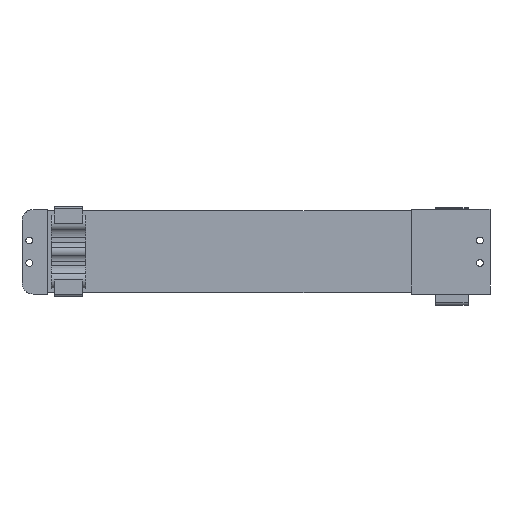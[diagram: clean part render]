
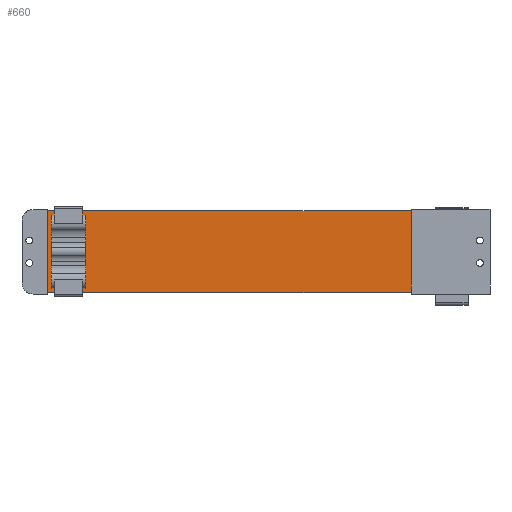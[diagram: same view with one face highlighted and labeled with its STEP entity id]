
A CAD part, front view. The second image highlights one B-rep face of the part: STEP entity #660.
In plain terms, the highlighted planar face has unit normal (0, -1, 0).
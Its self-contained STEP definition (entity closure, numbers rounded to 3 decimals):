
#660 = ADVANCED_FACE( '', ( #1328 ), #1329, .F. );
#1328 = FACE_OUTER_BOUND( '', #1994, .T. );
#1329 = PLANE( '', #1995 );
#1994 = EDGE_LOOP( '', ( #3670, #3671, #3672, #3673 ) );
#1995 = AXIS2_PLACEMENT_3D( '', #3674, #3675, #3676 );
#3670 = ORIENTED_EDGE( '', *, *, #4700, .T. );
#3671 = ORIENTED_EDGE( '', *, *, #4285, .F. );
#3672 = ORIENTED_EDGE( '', *, *, #4701, .F. );
#3673 = ORIENTED_EDGE( '', *, *, #4395, .T. );
#3674 = CARTESIAN_POINT( '', ( 654.25, 11.8, 73. ) );
#3675 = DIRECTION( '', ( 0., 1., 0. ) );
#3676 = DIRECTION( '', ( 0., 0., 1. ) );
#4285 = EDGE_CURVE( '', #5244, #5239, #5246, .T. );
#4395 = EDGE_CURVE( '', #5414, #5412, #5415, .T. );
#4700 = EDGE_CURVE( '', #5412, #5239, #5822, .T. );
#4701 = EDGE_CURVE( '', #5414, #5244, #5823, .T. );
#5239 = VERTEX_POINT( '', #6821 );
#5244 = VERTEX_POINT( '', #6828 );
#5246 = LINE( '', #6831, #6832 );
#5412 = VERTEX_POINT( '', #7063 );
#5414 = VERTEX_POINT( '', #7066 );
#5415 = LINE( '', #7067, #7068 );
#5822 = LINE( '', #7774, #7775 );
#5823 = LINE( '', #7776, #7777 );
#6821 = CARTESIAN_POINT( '', ( 0., 11.8, -73. ) );
#6828 = CARTESIAN_POINT( '', ( 654.25, 11.8, -73. ) );
#6831 = CARTESIAN_POINT( '', ( 654.25, 11.8, -73. ) );
#6832 = VECTOR( '', #8291, 1000. );
#7063 = CARTESIAN_POINT( '', ( 0., 11.8, 73. ) );
#7066 = CARTESIAN_POINT( '', ( 654.25, 11.8, 73. ) );
#7067 = CARTESIAN_POINT( '', ( 654.25, 11.8, 73. ) );
#7068 = VECTOR( '', #8428, 1000. );
#7774 = CARTESIAN_POINT( '', ( 0., 11.8, 73. ) );
#7775 = VECTOR( '', #8790, 1000. );
#7776 = CARTESIAN_POINT( '', ( 654.25, 11.8, 73. ) );
#7777 = VECTOR( '', #8791, 1000. );
#8291 = DIRECTION( '', ( -1., 0., 0. ) );
#8428 = DIRECTION( '', ( -1., 0., 0. ) );
#8790 = DIRECTION( '', ( 0., 0., -1. ) );
#8791 = DIRECTION( '', ( 0., 0., -1. ) );
